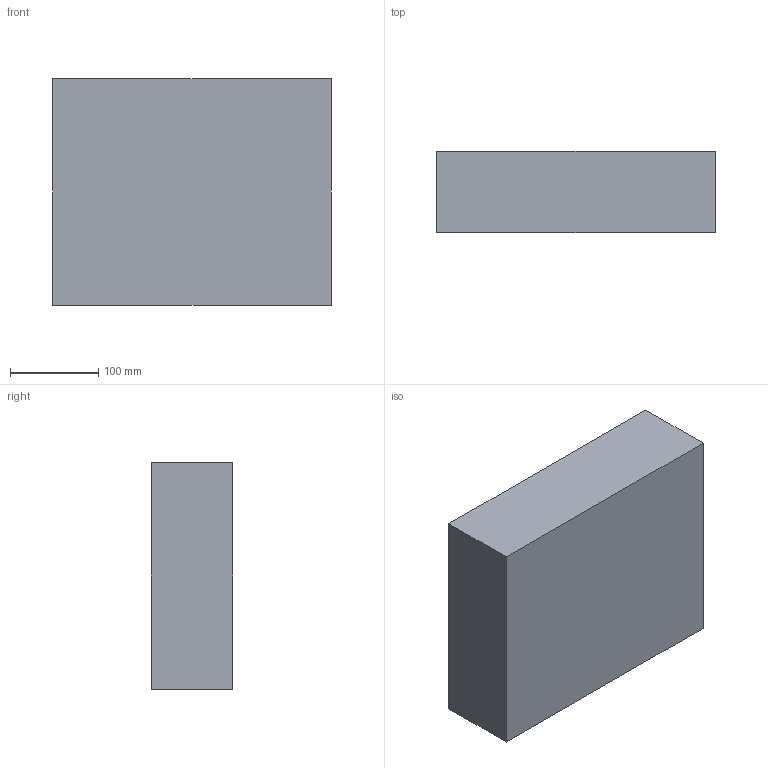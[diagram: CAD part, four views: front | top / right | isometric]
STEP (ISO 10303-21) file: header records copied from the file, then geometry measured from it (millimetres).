
FILE_DESCRIPTION (( 'STEP AP214' ), '1' );
FILE_NAME ('V100 PP BOTTOM TUB 2-5-2024.STEP', '2024-02-12T03:52:32', ( '' ), ( '' ), 'SwSTEP 2.0', 'SolidWorks 2021', '' );
FILE_SCHEMA (( 'AUTOMOTIVE_DESIGN' ));
Length unit declared in the file: millimetre
Products named in the file (1): V100 PP BOTTOM TUB 2-5-2024
Bounding box: 315.99 x 92.09 x 257.15 mm (x, y, z)
Volume: 2864088.7 mm3; surface area: 341908.4 mm2
Topology: 1 solids, 1 shells, 223 faces, 533 edges, 298 vertices
Faces by surface type: bspline 184, plane 39
Entity records: 9055 total; most frequent: CARTESIAN_POINT 5666, ORIENTED_EDGE 1034, EDGE_CURVE 517, VERTEX_POINT 298, DIRECTION 266, EDGE_LOOP 225, ADVANCED_FACE 223, FACE_OUTER_BOUND 223
